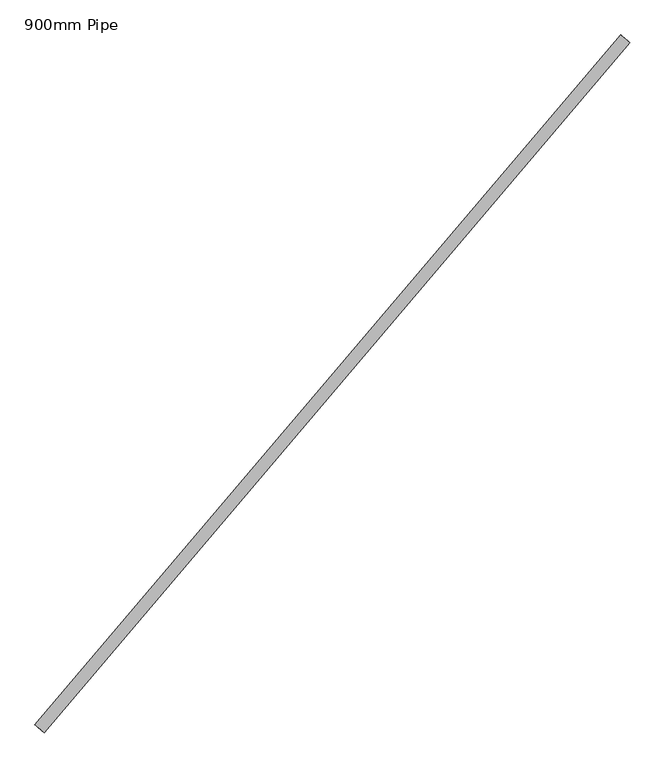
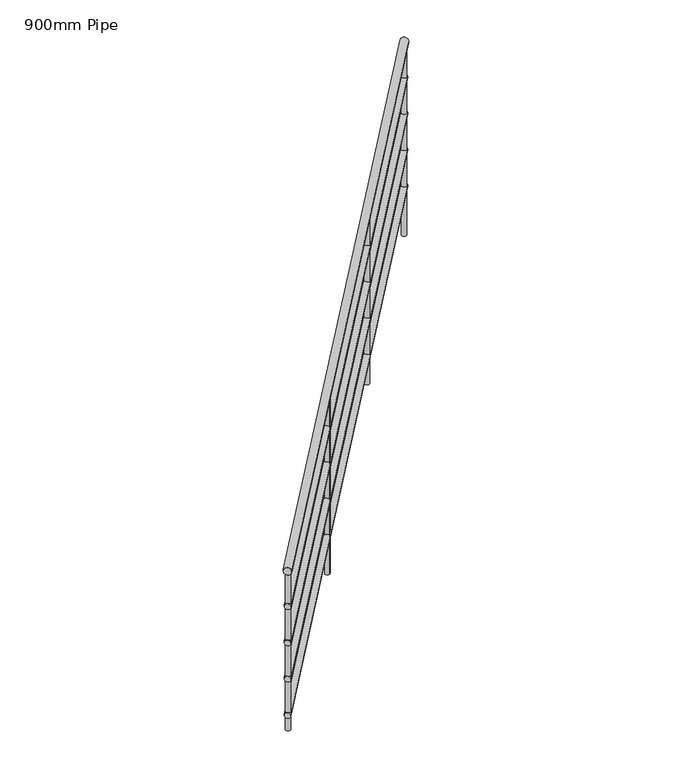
"""IFC4 building model written with IfcOpenShell, lengths in millimetres: railing geometry, 900mm Pipe."""

from ifc_helpers import new_model, si_unit, frame, origin, place, context, project, spatial, circle_curve, ellipse_curve, source, transform, mapped, element, save
from ifc_brep_helpers import plane_surface, cylinder_surface, advanced_brep


def railing_900mm_pipe_139b20a3(model_context):
    return source(origin(), model_context, "Body", "AdvancedBrep", [
        advanced_brep(
        [(892910.0302228, 13877.9470628, 6058.386247), (892879.5427127, 13903.841304, 6058.386247), (894814.5865302, 16120.3444866, 6954.8568352), (894784.0990201, 16146.2387278, 6954.8568352)],
        [
            (0, 1, ellipse_curve(frame((892894.7864678, 13890.8941834, 6058.386247), z_axis=(-0.6473560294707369, -0.7621877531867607, 0.0), x_axis=(0.0, 0.0, -1.0)), 20.9078706, 20.0)),
            (1, 0, ellipse_curve(frame((892894.7864678, 13890.8941834, 6058.386247), z_axis=(-0.6473560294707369, -0.7621877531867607, 0.0), x_axis=(0.0, 0.0, -1.0)), 20.9078706, 20.0)),
            (2, 3, ellipse_curve(frame((894799.3427752, 16133.2916072, 6954.8568352), z_axis=(0.6473560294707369, 0.7621877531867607, 0.0), x_axis=(0.0, 0.0, -1.0)), 20.9078706, 20.0)),
            (3, 2, ellipse_curve(frame((894799.3427752, 16133.2916072, 6954.8568352), z_axis=(0.6473560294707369, 0.7621877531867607, 0.0), x_axis=(0.0, 0.0, -1.0)), 20.9078706, 20.0)),
            (1, 3),
            (2, 0),
        ],
        [
            plane_surface(frame((892894.7864678, 13890.8941834, 6079.2941176), z_axis=(-0.6473560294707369, -0.7621877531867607, 0.0), x_axis=(0.7621877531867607, -0.6473560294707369, 0.0))),
            plane_surface(frame((894799.3427752, 16133.2916072, 6975.7647059), z_axis=(0.6473560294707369, 0.7621877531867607, 0.0), x_axis=(0.7621877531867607, -0.6473560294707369, 0.0))),
            cylinder_surface(frame((892898.5602672, 13895.337401, 6060.1625663), z_axis=(-0.6192462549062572, -0.7290917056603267, -0.2914778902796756), x_axis=(-0.7621877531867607, 0.6473560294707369, 0.0)), 20.0),
        ],
        [
            (0, [[1, 2]]),
            (1, [[3, 4]]),
            (2, [[-2, 5, -3, 6]]),
            (2, [[-1, -6, -4, -5]]),
        ],
    ),
        advanced_brep(
        [(892906.2192841, 13881.183843, 5863.6132147), (892883.3536515, 13900.6045239, 5863.6132147), (894810.7755915, 16123.5812668, 6760.0838029), (894787.9099589, 16143.0019476, 6760.0838029)],
        [
            (0, 1, ellipse_curve(frame((892894.7864678, 13890.8941834, 5863.6132147), z_axis=(-0.6473560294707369, -0.7621877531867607, 0.0), x_axis=(0.0, 0.0, -1.0)), 15.680903, 15.0)),
            (1, 0, ellipse_curve(frame((892894.7864678, 13890.8941834, 5863.6132147), z_axis=(-0.6473560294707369, -0.7621877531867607, 0.0), x_axis=(0.0, 0.0, -1.0)), 15.680903, 15.0)),
            (2, 3, ellipse_curve(frame((894799.3427752, 16133.2916072, 6760.0838029), z_axis=(0.6473560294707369, 0.7621877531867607, 0.0), x_axis=(0.0, 0.0, -1.0)), 15.680903, 15.0)),
            (3, 2, ellipse_curve(frame((894799.3427752, 16133.2916072, 6760.0838029), z_axis=(0.6473560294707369, 0.7621877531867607, 0.0), x_axis=(0.0, 0.0, -1.0)), 15.680903, 15.0)),
            (0, 2),
            (3, 1),
        ],
        [
            plane_surface(frame((892894.7864678, 13890.8941834, 5879.2941176), z_axis=(-0.6473560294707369, -0.7621877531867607, 0.0), x_axis=(0.7621877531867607, -0.6473560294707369, 0.0))),
            plane_surface(frame((894799.3427752, 16133.2916072, 6775.7647059), z_axis=(0.6473560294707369, 0.7621877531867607, 0.0), x_axis=(0.7621877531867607, -0.6473560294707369, 0.0))),
            cylinder_surface(frame((892897.6168173, 13894.2265966, 5864.9454542), z_axis=(-0.6192462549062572, -0.7290917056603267, -0.2914778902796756), x_axis=(-0.7621877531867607, 0.6473560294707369, 0.0)), 15.0),
        ],
        [
            (0, [[1, 2]]),
            (1, [[3, 4]]),
            (2, [[-1, 5, -4, 6]]),
            (2, [[-2, -6, -3, -5]]),
        ],
    ),
        advanced_brep(
        [(892906.2192841, 13881.183843, 5663.6132147), (892883.3536515, 13900.6045239, 5663.6132147), (894810.7755915, 16123.5812668, 6560.0838029), (894787.9099589, 16143.0019476, 6560.0838029)],
        [
            (0, 1, ellipse_curve(frame((892894.7864678, 13890.8941834, 5663.6132147), z_axis=(-0.6473560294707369, -0.7621877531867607, 0.0), x_axis=(0.0, 0.0, -1.0)), 15.680903, 15.0)),
            (1, 0, ellipse_curve(frame((892894.7864678, 13890.8941834, 5663.6132147), z_axis=(-0.6473560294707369, -0.7621877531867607, 0.0), x_axis=(0.0, 0.0, -1.0)), 15.680903, 15.0)),
            (2, 3, ellipse_curve(frame((894799.3427752, 16133.2916072, 6560.0838029), z_axis=(0.6473560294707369, 0.7621877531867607, 0.0), x_axis=(0.0, 0.0, -1.0)), 15.680903, 15.0)),
            (3, 2, ellipse_curve(frame((894799.3427752, 16133.2916072, 6560.0838029), z_axis=(0.6473560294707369, 0.7621877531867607, 0.0), x_axis=(0.0, 0.0, -1.0)), 15.680903, 15.0)),
            (0, 2),
            (3, 1),
        ],
        [
            plane_surface(frame((892894.7864678, 13890.8941834, 5679.2941176), z_axis=(-0.6473560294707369, -0.7621877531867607, 0.0), x_axis=(0.7621877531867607, -0.6473560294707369, 0.0))),
            plane_surface(frame((894799.3427752, 16133.2916072, 6575.7647059), z_axis=(0.6473560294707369, 0.7621877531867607, 0.0), x_axis=(0.7621877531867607, -0.6473560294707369, 0.0))),
            cylinder_surface(frame((892897.6168173, 13894.2265966, 5664.9454542), z_axis=(-0.6192462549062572, -0.7290917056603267, -0.2914778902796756), x_axis=(-0.7621877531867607, 0.6473560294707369, 0.0)), 15.0),
        ],
        [
            (0, [[1, 2]]),
            (1, [[3, 4]]),
            (2, [[-1, 5, -4, 6]]),
            (2, [[-2, -6, -3, -5]]),
        ],
    ),
        advanced_brep(
        [(892906.2192841, 13881.183843, 5463.6132147), (892883.3536515, 13900.6045239, 5463.6132147), (894810.7755915, 16123.5812668, 6360.0838029), (894787.9099589, 16143.0019476, 6360.0838029)],
        [
            (0, 1, ellipse_curve(frame((892894.7864678, 13890.8941834, 5463.6132147), z_axis=(-0.6473560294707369, -0.7621877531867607, 0.0), x_axis=(0.0, 0.0, -1.0)), 15.680903, 15.0)),
            (1, 0, ellipse_curve(frame((892894.7864678, 13890.8941834, 5463.6132147), z_axis=(-0.6473560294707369, -0.7621877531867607, 0.0), x_axis=(0.0, 0.0, -1.0)), 15.680903, 15.0)),
            (2, 3, ellipse_curve(frame((894799.3427752, 16133.2916072, 6360.0838029), z_axis=(0.6473560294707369, 0.7621877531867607, 0.0), x_axis=(0.0, 0.0, -1.0)), 15.680903, 15.0)),
            (3, 2, ellipse_curve(frame((894799.3427752, 16133.2916072, 6360.0838029), z_axis=(0.6473560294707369, 0.7621877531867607, 0.0), x_axis=(0.0, 0.0, -1.0)), 15.680903, 15.0)),
            (0, 2),
            (3, 1),
        ],
        [
            plane_surface(frame((892894.7864678, 13890.8941834, 5479.2941176), z_axis=(-0.6473560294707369, -0.7621877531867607, 0.0), x_axis=(0.7621877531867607, -0.6473560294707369, 0.0))),
            plane_surface(frame((894799.3427752, 16133.2916072, 6375.7647059), z_axis=(0.6473560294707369, 0.7621877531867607, 0.0), x_axis=(0.7621877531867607, -0.6473560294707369, 0.0))),
            cylinder_surface(frame((892897.6168173, 13894.2265966, 5464.9454542), z_axis=(-0.6192462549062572, -0.7290917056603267, -0.2914778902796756), x_axis=(-0.7621877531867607, 0.6473560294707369, 0.0)), 15.0),
        ],
        [
            (0, [[1, 2]]),
            (1, [[3, 4]]),
            (2, [[-1, 5, -4, 6]]),
            (2, [[-2, -6, -3, -5]]),
        ],
    ),
        advanced_brep(
        [(892906.2192841, 13881.183843, 5263.6132147), (892883.3536515, 13900.6045239, 5263.6132147), (894810.7755915, 16123.5812668, 6160.0838029), (894787.9099589, 16143.0019476, 6160.0838029)],
        [
            (0, 1, ellipse_curve(frame((892894.7864678, 13890.8941834, 5263.6132147), z_axis=(-0.6473560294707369, -0.7621877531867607, 0.0), x_axis=(0.0, 0.0, -1.0)), 15.680903, 15.0)),
            (1, 0, ellipse_curve(frame((892894.7864678, 13890.8941834, 5263.6132147), z_axis=(-0.6473560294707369, -0.7621877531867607, 0.0), x_axis=(0.0, 0.0, -1.0)), 15.680903, 15.0)),
            (2, 3, ellipse_curve(frame((894799.3427752, 16133.2916072, 6160.0838029), z_axis=(0.6473560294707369, 0.7621877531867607, 0.0), x_axis=(0.0, 0.0, -1.0)), 15.680903, 15.0)),
            (3, 2, ellipse_curve(frame((894799.3427752, 16133.2916072, 6160.0838029), z_axis=(0.6473560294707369, 0.7621877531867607, 0.0), x_axis=(0.0, 0.0, -1.0)), 15.680903, 15.0)),
            (0, 2),
            (3, 1),
        ],
        [
            plane_surface(frame((892894.7864678, 13890.8941834, 5279.2941176), z_axis=(-0.6473560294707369, -0.7621877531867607, 0.0), x_axis=(0.7621877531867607, -0.6473560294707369, 0.0))),
            plane_surface(frame((894799.3427752, 16133.2916072, 6175.7647059), z_axis=(0.6473560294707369, 0.7621877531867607, 0.0), x_axis=(0.7621877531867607, -0.6473560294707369, 0.0))),
            cylinder_surface(frame((892897.6168173, 13894.2265966, 5264.9454542), z_axis=(-0.6192462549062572, -0.7290917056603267, -0.2914778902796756), x_axis=(-0.7621877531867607, 0.6473560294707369, 0.0)), 15.0),
        ],
        [
            (0, [[1, 2]]),
            (1, [[3, 4]]),
            (2, [[-1, 5, -4, 6]]),
            (2, [[-2, -6, -3, -5]]),
        ],
    ),
        advanced_brep(
        [(894179.9711798, 15423.3616402, 6646.8965794), (894199.0258736, 15407.1777394, 6646.8965794), (894199.0258736, 15407.1777394, 5717.1764706), (894179.9711798, 15423.3616402, 5717.1764706)],
        [
            (0, 1, ellipse_curve(frame((894189.4985267, 15415.2696898, 6646.8965794), z_axis=(0.18868996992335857, 0.2221608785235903, -0.9565775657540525), x_axis=(0.6192462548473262, 0.7290917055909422, 0.2914778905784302)), 13.0674191, 12.5)),
            (1, 2),
            (2, 3, circle_curve(frame((894189.4985267, 15415.2696898, 5717.1764706), z_axis=(0.0, 0.0, 1.0), x_axis=(0.7621877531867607, -0.6473560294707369, 0.0)), 12.5)),
            (3, 0),
            (3, 2, circle_curve(frame((894189.4985267, 15415.2696898, 5717.1764706), z_axis=(0.0, 0.0, 1.0), x_axis=(0.7621877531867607, -0.6473560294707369, 0.0)), 12.5)),
            (1, 0, ellipse_curve(frame((894189.4985267, 15415.2696898, 6646.8965794), z_axis=(0.18868996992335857, 0.2221608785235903, -0.9565775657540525), x_axis=(0.6192462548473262, 0.7290917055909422, 0.2914778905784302)), 13.0674191, 12.5)),
        ],
        [
            cylinder_surface(frame((894189.4985267, 15415.2696898, 5617.1764706), z_axis=(0.0, 0.0, 1.0), x_axis=(0.7621877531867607, -0.6473560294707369, 0.0)), 12.5),
            plane_surface(frame((894224.7371213, 15418.1404829, 6654.5143069), z_axis=(-0.18868996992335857, -0.2221608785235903, 0.9565775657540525), x_axis=(-0.7621877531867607, 0.6473560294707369, 0.0))),
            plane_surface(frame((894192.3693198, 15380.0310952, 5717.1764706), z_axis=(0.0, 0.0, -1.0), x_axis=(-0.7621877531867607, 0.6473560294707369, 0.0))),
        ],
        [
            (0, [[1, 2, 3, 4]]),
            (0, [[5, -2, 6, -4]]),
            (1, [[-6, -1]]),
            (2, [[-5, -3]]),
        ],
    ),
        advanced_brep(
        [(893532.6151503, 14661.173887, 6342.1874779), (893551.6698442, 14644.9899862, 6342.1874779), (893551.6698442, 14644.9899862, 5358.5882353), (893532.6151503, 14661.173887, 5358.5882353)],
        [
            (0, 1, ellipse_curve(frame((893542.1424972, 14653.0819366, 6342.1874779), z_axis=(0.1886899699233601, 0.22216087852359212, -0.9565775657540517), x_axis=(0.6192462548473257, 0.7290917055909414, 0.29147789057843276)), 13.0674191, 12.5)),
            (1, 2),
            (2, 3, circle_curve(frame((893542.1424972, 14653.0819366, 5358.5882353), z_axis=(0.0, 0.0, 1.0), x_axis=(0.7621877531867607, -0.6473560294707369, 0.0)), 12.5)),
            (3, 0),
            (3, 2, circle_curve(frame((893542.1424972, 14653.0819366, 5358.5882353), z_axis=(0.0, 0.0, 1.0), x_axis=(0.7621877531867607, -0.6473560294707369, 0.0)), 12.5)),
            (1, 0, ellipse_curve(frame((893542.1424972, 14653.0819366, 6342.1874779), z_axis=(0.1886899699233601, 0.22216087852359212, -0.9565775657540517), x_axis=(0.6192462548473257, 0.7290917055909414, 0.29147789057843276)), 13.0674191, 12.5)),
        ],
        [
            cylinder_surface(frame((893542.1424972, 14653.0819366, 5258.5882353), z_axis=(0.0, 0.0, 1.0), x_axis=(0.7621877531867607, -0.6473560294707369, 0.0)), 12.5),
            plane_surface(frame((893577.3810918, 14655.9527297, 6349.8052054), z_axis=(-0.1886899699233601, -0.22216087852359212, 0.9565775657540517), x_axis=(-0.7621877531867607, 0.6473560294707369, 0.0))),
            plane_surface(frame((893545.0132903, 14617.843342, 5358.5882353), z_axis=(0.0, 0.0, -1.0), x_axis=(-0.7621877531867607, 0.6473560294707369, 0.0))),
        ],
        [
            (0, [[1, 2, 3, 4]]),
            (0, [[5, -2, 6, -4]]),
            (1, [[-6, -1]]),
            (2, [[-5, -3]]),
        ],
    ),
        advanced_brep(
        [(894781.7234779, 16131.8562107, 6930.1401008), (894800.7781717, 16115.6723099, 6930.1401008), (894800.7781717, 16115.6723099, 5896.4705882), (894781.7234779, 16131.8562107, 5896.4705882)],
        [
            (0, 1, ellipse_curve(frame((894791.2508248, 16123.7642603, 6930.1401008), z_axis=(0.18868996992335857, 0.2221608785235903, -0.9565775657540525), x_axis=(0.6192462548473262, 0.7290917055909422, 0.2914778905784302)), 13.0674191, 12.5)),
            (1, 2),
            (2, 3, circle_curve(frame((894791.2508248, 16123.7642603, 5896.4705882), z_axis=(0.0, 0.0, 1.0), x_axis=(0.7621877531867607, -0.6473560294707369, 0.0)), 12.5)),
            (3, 0),
            (3, 2, circle_curve(frame((894791.2508248, 16123.7642603, 5896.4705882), z_axis=(0.0, 0.0, 1.0), x_axis=(0.7621877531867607, -0.6473560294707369, 0.0)), 12.5)),
            (1, 0, ellipse_curve(frame((894791.2508248, 16123.7642603, 6930.1401008), z_axis=(0.18868996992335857, 0.2221608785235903, -0.9565775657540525), x_axis=(0.6192462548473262, 0.7290917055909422, 0.2914778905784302)), 13.0674191, 12.5)),
        ],
        [
            cylinder_surface(frame((894791.2508248, 16123.7642603, 5796.4705882), z_axis=(0.0, 0.0, 1.0), x_axis=(0.7621877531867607, -0.6473560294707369, 0.0)), 12.5),
            plane_surface(frame((894826.4894194, 16126.6350534, 6937.7578284), z_axis=(-0.18868996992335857, -0.2221608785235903, 0.9565775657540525), x_axis=(-0.7621877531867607, 0.6473560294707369, 0.0))),
            plane_surface(frame((894794.1216179, 16088.5256657, 5896.4705882), z_axis=(0.0, 0.0, -1.0), x_axis=(-0.7621877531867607, 0.6473560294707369, 0.0))),
        ],
        [
            (0, [[1, 2, 3, 4]]),
            (0, [[5, -2, 6, -4]]),
            (1, [[-6, -1]]),
            (2, [[-5, -3]]),
        ],
    ),
        advanced_brep(
        [(892893.3510712, 13908.5134807, 6041.2872401), (892912.4057651, 13892.32958, 6041.2872401), (892912.4057651, 13892.32958, 5179.2941176), (892893.3510712, 13908.5134807, 5179.2941176)],
        [
            (0, 1, ellipse_curve(frame((892902.8784181, 13900.4215303, 6041.2872401), z_axis=(0.1886899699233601, 0.22216087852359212, -0.9565775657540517), x_axis=(0.6192462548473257, 0.7290917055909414, 0.29147789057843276)), 13.0674191, 12.5)),
            (1, 2),
            (2, 3, circle_curve(frame((892902.8784181, 13900.4215303, 5179.2941176), z_axis=(0.0, 0.0, 1.0), x_axis=(0.7621877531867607, -0.6473560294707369, 0.0)), 12.5)),
            (3, 0),
            (3, 2, circle_curve(frame((892902.8784181, 13900.4215303, 5179.2941176), z_axis=(0.0, 0.0, 1.0), x_axis=(0.7621877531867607, -0.6473560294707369, 0.0)), 12.5)),
            (1, 0, ellipse_curve(frame((892902.8784181, 13900.4215303, 6041.2872401), z_axis=(0.1886899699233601, 0.22216087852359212, -0.9565775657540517), x_axis=(0.6192462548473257, 0.7290917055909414, 0.29147789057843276)), 13.0674191, 12.5)),
        ],
        [
            cylinder_surface(frame((892902.8784181, 13900.4215303, 5079.2941176), z_axis=(0.0, 0.0, 1.0), x_axis=(0.7621877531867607, -0.6473560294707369, 0.0)), 12.5),
            plane_surface(frame((892938.1170127, 13903.2923234, 6048.9049677), z_axis=(-0.1886899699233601, -0.22216087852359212, 0.9565775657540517), x_axis=(-0.7621877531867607, 0.6473560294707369, 0.0))),
            plane_surface(frame((892905.7492112, 13865.1829358, 5179.2941176), z_axis=(0.0, 0.0, -1.0), x_axis=(-0.7621877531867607, 0.6473560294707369, 0.0))),
        ],
        [
            (0, [[1, 2, 3, 4]]),
            (0, [[5, -2, 6, -4]]),
            (1, [[-6, -1]]),
            (2, [[-5, -3]]),
        ],
    ),
    ])


if __name__ == "__main__":
    model = new_model("IFC4")
    model_context = context("Model", 3, world=origin())
    ifc_project = project(units=[si_unit("LENGTHUNIT", "METRE", prefix="MILLI")], contexts=[model_context])
    site = spatial("IfcSite", under=ifc_project)
    building = spatial("IfcBuilding", under=site)
    placement = place(None, origin())
    railing_900mm_pipe_shape = railing_900mm_pipe_139b20a3(model_context)
    element("IfcRailing", 1, ObjectType="900mm Pipe", at=placement, inside=building, context=model_context, shape_type="MappedRepresentation", body=[
        mapped(railing_900mm_pipe_shape, transform((0.0, 0.0, 0.0), x_axis=(1.0, 0.0, 0.0), y_axis=(0.0, 1.0, 0.0), z_axis=(0.0, 0.0, 1.0))),
    ])
    save(model, "model.ifc")
